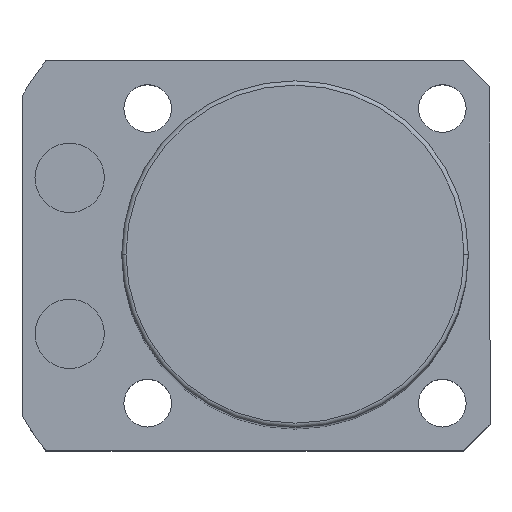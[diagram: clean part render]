
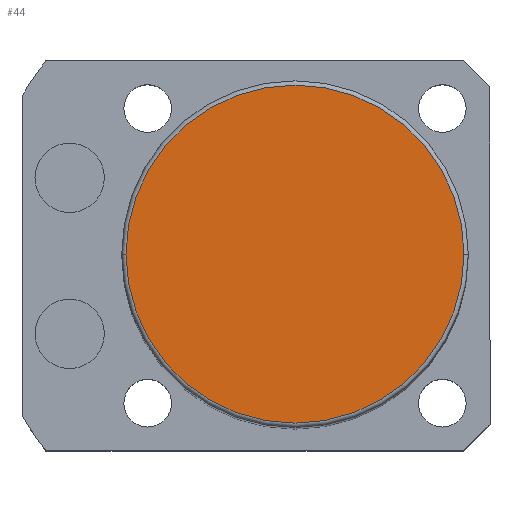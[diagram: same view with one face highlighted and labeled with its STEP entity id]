
A CAD part, top view. The second image highlights one B-rep face of the part: STEP entity #44.
In plain terms, the highlighted planar face has unit normal (0, 0, 1).
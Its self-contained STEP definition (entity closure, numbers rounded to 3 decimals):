
#44 = ADVANCED_FACE ( 'NONE', ( #788 ), #2053, .T. ) ;
#138 = VERTEX_POINT ( 'NONE', #2571 ) ;
#175 = CARTESIAN_POINT ( 'NONE',  ( 0., 0., 123.5 ) ) ;
#630 = VERTEX_POINT ( 'NONE', #2576 ) ;
#730 = CARTESIAN_POINT ( 'NONE',  ( 0., 0., 123.5 ) ) ;
#788 = FACE_OUTER_BOUND ( 'NONE', #2046, .T. ) ;
#789 = CIRCLE ( 'NONE', #1515, 19.5 ) ;
#825 = AXIS2_PLACEMENT_3D ( 'NONE', #730, #2269, #1193 ) ;
#928 = AXIS2_PLACEMENT_3D ( 'NONE', #175, #1018, #1001 ) ;
#1001 = DIRECTION ( 'NONE',  ( 1., 0., 0. ) ) ;
#1018 = DIRECTION ( 'NONE',  ( 0., 0., 1. ) ) ;
#1165 = DIRECTION ( 'NONE',  ( 1., 0., 0. ) ) ;
#1193 = DIRECTION ( 'NONE',  ( 1., 0., 0. ) ) ;
#1232 = EDGE_CURVE ( 'NONE', #138, #630, #1741, .T. ) ;
#1515 = AXIS2_PLACEMENT_3D ( 'NONE', #1556, #2185, #1165 ) ;
#1536 = ORIENTED_EDGE ( 'NONE', *, *, #1232, .T. ) ;
#1556 = CARTESIAN_POINT ( 'NONE',  ( 0., 0., 123.5 ) ) ;
#1741 = CIRCLE ( 'NONE', #825, 19.5 ) ;
#2046 = EDGE_LOOP ( 'NONE', ( #2333, #1536 ) ) ;
#2053 = PLANE ( 'NONE',  #928 ) ;
#2185 = DIRECTION ( 'NONE',  ( 0., 0., 1. ) ) ;
#2208 = EDGE_CURVE ( 'NONE', #630, #138, #789, .T. ) ;
#2269 = DIRECTION ( 'NONE',  ( 0., 0., 1. ) ) ;
#2333 = ORIENTED_EDGE ( 'NONE', *, *, #2208, .T. ) ;
#2571 = CARTESIAN_POINT ( 'NONE',  ( -19.5, 0., 123.5 ) ) ;
#2576 = CARTESIAN_POINT ( 'NONE',  ( 19.5, 0., 123.5 ) ) ;
